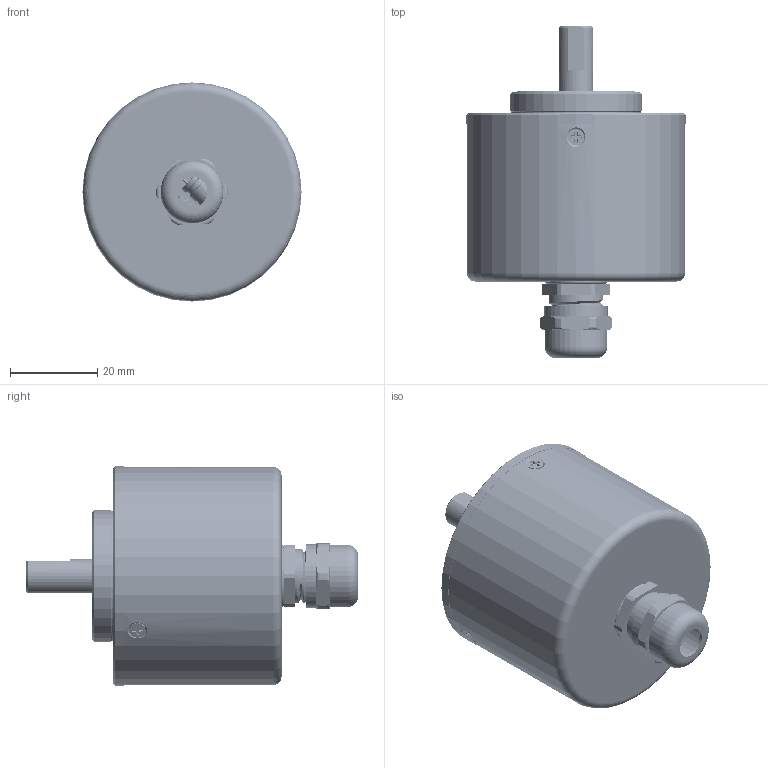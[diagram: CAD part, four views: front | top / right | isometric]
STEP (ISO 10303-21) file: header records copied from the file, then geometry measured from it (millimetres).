
FILE_DESCRIPTION (( 'STEP AP214' ), '1' );
FILE_NAME ('E50S8.STEP', '2021-11-06T01:24:54', ( 'Windows 蚚誧' ), ( '' ), 'SwSTEP 2.0', 'SolidWorks 2018', '' );
FILE_SCHEMA (( 'AUTOMOTIVE_DESIGN' ));
Length unit declared in the file: millimetre
Products named in the file (39): EVM3ESX10B14; 鎢攫360; MF-NSMF010; 608Z粣創; OSD1011M俋倛; 07-6H9.3_4-2017; LM2901; 02-8L46-2017; 4.7uf_50V电解电容-弯脚; 01-50H19-2017; 7805-pak; 50.54b-2016啣; 湮滅阨脣芛摴1; E50S8; 05-M2H12.8-2017; 湮滅阨脣芛摴1裔; 04-24H8-2017蚾饜-俔褐; 防水胶圈1; 发射管弯脚热缩管1; 狫瑜360; 03-50H36E-2017; OL87KLB-俔褐; O型圈41X1.8; 12-5.01-2017; 50.54B.2016蚾饜极1; M3X3顶丝_狭缝座子装配体3; SOD?123FL; M2X5坋趼羞麥芛蹟隊; SMA; M2X6圆头螺钉_狭缝座子装配体3; 0603[1608]; M2X8埴芛蹟隊す菜.SLDPRT; 0805[2012]; M2X8圆头螺钉_狭缝座子装配体3; 1206[3216]; ∮2平垫; SOT-23; 06-6.01-2017
Assembly tree (66 placements, depth 3):
  E50S8
    01-50H19-2017
    02-8L46-2017
    07-6H9.3_4-2017
    608Z粣創  x2
    鎢攫360
    06-6.01-2017
    M2X8埴芛蹟隊す菜.SLDPRT  x2
      ∮2平垫
      M2X8圆头螺钉_狭缝座子装配体3
    M2X6圆头螺钉_狭缝座子装配体3  x3
    M2X5坋趼羞麥芛蹟隊  x5
    M3X3顶丝_狭缝座子装配体3  x2
    04-24H8-2017蚾饜-俔褐
      12-5.01-2017
      OL87KLB-俔褐
      狫瑜360
      发射管弯脚热缩管1  x2
    05-M2H12.8-2017  x3
    50.54B.2016蚾饜极1
      50.54b-2016啣
      7805-pak
      4.7uf_50V电解电容-弯脚
      LM2901
      OSD1011M俋倛
      MF-NSMF010  x3
      EVM3ESX10B14  x3
      SOT-23  x3
      1206[3216]
      0805[2012]  x4
      0603[1608]  x6
      SMA
      SOD?123FL  x3
    O型圈41X1.8
    03-50H36E-2017
    湮滅阨脣芛摴1
      湮滅阨脣芛摴1
      防水胶圈1
      湮滅阨脣芛摴1裔
Bounding box: 50.2 x 76 x 50.2 mm (x, y, z)
Volume: 41412.7 mm3; surface area: 37913.4 mm2
Topology: 99 solids, 99 shells, 7348 faces, 19095 edges, 12644 vertices
Faces by surface type: plane 3510, cylinder 2349, bspline 1077, cone 273, torus 125, sphere 14
Entity records: 211337 total; most frequent: CARTESIAN_POINT 79021, ORIENTED_EDGE 26230, DIRECTION 23526, EDGE_CURVE 13115, VERTEX_POINT 8714, AXIS2_PLACEMENT_3D 7984, LINE 7558, VECTOR 7558
